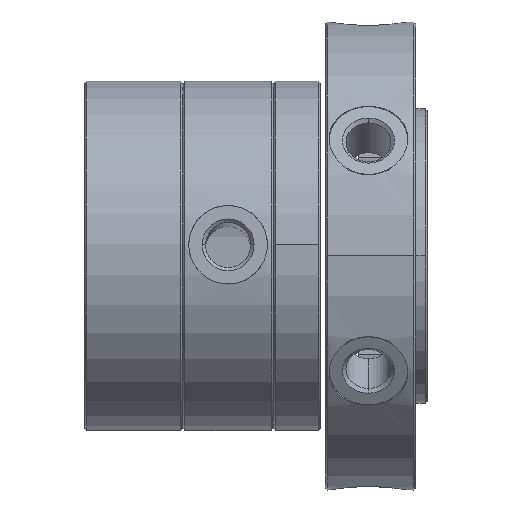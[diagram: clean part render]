
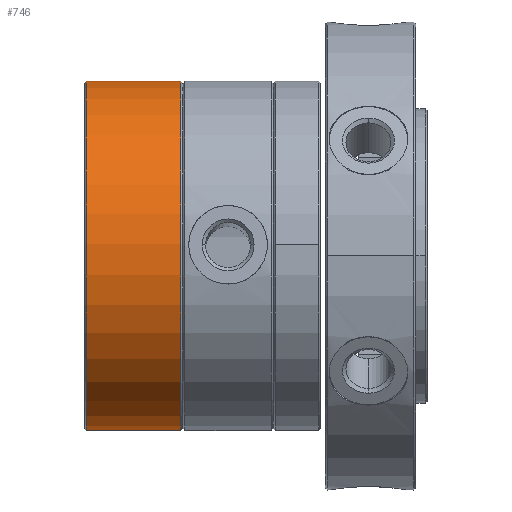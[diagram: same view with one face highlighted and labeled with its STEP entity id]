
A CAD part, top view. The second image highlights one B-rep face of the part: STEP entity #746.
In plain terms, the highlighted cylindrical face has radius 44.5 mm (diameter 89 mm), a partial arc.
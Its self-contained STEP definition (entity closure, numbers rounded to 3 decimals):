
#74 = CARTESIAN_POINT ( 'NONE',  ( -60.7, 44.408, -2.859 ) ) ;
#184 = VERTEX_POINT ( 'NONE', #11851 ) ;
#291 = DIRECTION ( 'NONE',  ( 0., -0.998, 0.064 ) ) ;
#588 = CIRCLE ( 'NONE', #10025, 44.5 ) ;
#746 = ADVANCED_FACE ( 'NONE', ( #7089 ), #9296, .T. ) ;
#966 = ORIENTED_EDGE ( 'NONE', *, *, #4938, .T. ) ;
#1179 = VERTEX_POINT ( 'NONE', #74 ) ;
#1274 = EDGE_CURVE ( 'NONE', #7098, #184, #11285, .T. ) ;
#1559 = VERTEX_POINT ( 'NONE', #5762 ) ;
#1933 = EDGE_LOOP ( 'NONE', ( #10413, #966, #7059, #11391 ) ) ;
#2504 = EDGE_CURVE ( 'NONE', #1179, #184, #4046, .T. ) ;
#2563 = DIRECTION ( 'NONE',  ( -1., 0., 0. ) ) ;
#3441 = VECTOR ( 'NONE', #12094, 1000. ) ;
#4046 = CIRCLE ( 'NONE', #8067, 44.5 ) ;
#4166 = CARTESIAN_POINT ( 'NONE',  ( -30.157, 0., 0. ) ) ;
#4448 = DIRECTION ( 'NONE',  ( 1., 0., 0. ) ) ;
#4938 = EDGE_CURVE ( 'NONE', #1559, #1179, #11061, .T. ) ;
#5088 = CARTESIAN_POINT ( 'NONE',  ( -36.7, 0., 0. ) ) ;
#5398 = CARTESIAN_POINT ( 'NONE',  ( -36.7, -44.408, 2.859 ) ) ;
#5415 = CARTESIAN_POINT ( 'NONE',  ( -30.157, 44.408, -2.859 ) ) ;
#5762 = CARTESIAN_POINT ( 'NONE',  ( -36.7, 44.408, -2.859 ) ) ;
#6053 = DIRECTION ( 'NONE',  ( 0., -0.998, 0.064 ) ) ;
#6094 = DIRECTION ( 'NONE',  ( -1., 0., 0. ) ) ;
#6384 = CARTESIAN_POINT ( 'NONE',  ( -30.157, -44.408, 2.859 ) ) ;
#7059 = ORIENTED_EDGE ( 'NONE', *, *, #2504, .T. ) ;
#7089 = FACE_OUTER_BOUND ( 'NONE', #1933, .T. ) ;
#7098 = VERTEX_POINT ( 'NONE', #5398 ) ;
#8067 = AXIS2_PLACEMENT_3D ( 'NONE', #10145, #4448, #11137 ) ;
#8299 = AXIS2_PLACEMENT_3D ( 'NONE', #4166, #6094, #291 ) ;
#8736 = VECTOR ( 'NONE', #2563, 1000. ) ;
#9296 = CYLINDRICAL_SURFACE ( 'NONE', #8299, 44.5 ) ;
#10025 = AXIS2_PLACEMENT_3D ( 'NONE', #5088, #11767, #6053 ) ;
#10145 = CARTESIAN_POINT ( 'NONE',  ( -60.7, 0., 0. ) ) ;
#10413 = ORIENTED_EDGE ( 'NONE', *, *, #11440, .T. ) ;
#11061 = LINE ( 'NONE', #5415, #3441 ) ;
#11137 = DIRECTION ( 'NONE',  ( 0., 0.998, -0.064 ) ) ;
#11285 = LINE ( 'NONE', #6384, #8736 ) ;
#11391 = ORIENTED_EDGE ( 'NONE', *, *, #1274, .F. ) ;
#11440 = EDGE_CURVE ( 'NONE', #7098, #1559, #588, .T. ) ;
#11767 = DIRECTION ( 'NONE',  ( -1., 0., 0. ) ) ;
#11851 = CARTESIAN_POINT ( 'NONE',  ( -60.7, -44.408, 2.859 ) ) ;
#12094 = DIRECTION ( 'NONE',  ( -1., 0., 0. ) ) ;
